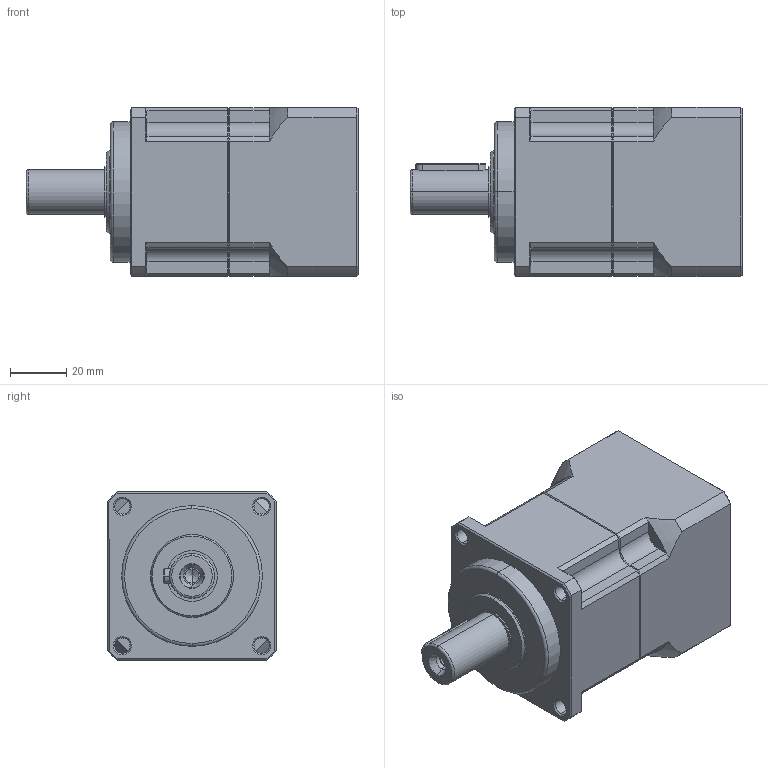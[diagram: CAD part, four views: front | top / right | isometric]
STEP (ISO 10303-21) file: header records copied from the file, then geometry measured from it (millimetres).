
FILE_DESCRIPTION (( 'STEP AP203' ), '1' );
FILE_NAME ('TB060-L1-11-50-70-M4-34-5.5.STEP', '2021-09-28T00:21:22', ( '' ), ( '' ), 'SwSTEP 2.0', 'SolidWorks 2017', '' );
FILE_SCHEMA (( 'CONFIG_CONTROL_DESIGN' ));
Length unit declared in the file: millimetre
Products named in the file (6): TB060-L1ヶ僇; 曹噤杶 14-11; 標杶-TB060-001 17-35-10.5; 平键5×5×25; TB060-L1-11-50-70-M4-34-5.5; 一体法兰TB060-50-70-M4-5.5-方60厚46       （B.TB060.FLB.000.001）
Assembly tree (5 placements, depth 2):
  TB060-L1-11-50-70-M4-34-5.5
    TB060-L1ヶ僇
    一体法兰TB060-50-70-M4-5.5-方60厚46       （B.TB060.FLB.000.001）
    平键5×5×25
    標杶-TB060-001 17-35-10.5
    曹噤杶 14-11
Bounding box: 118 x 60 x 60 mm (x, y, z)
Volume: 262874.2 mm3; surface area: 49030.4 mm2
Topology: 5 solids, 5 shells, 300 faces, 696 edges, 413 vertices
Faces by surface type: plane 105, cylinder 99, cone 82, torus 14
Entity records: 9381 total; most frequent: CARTESIAN_POINT 1925, DIRECTION 1504, ORIENTED_EDGE 1372, EDGE_CURVE 686, AXIS2_PLACEMENT_3D 591, VERTEX_POINT 413, EDGE_LOOP 333, VECTOR 322
